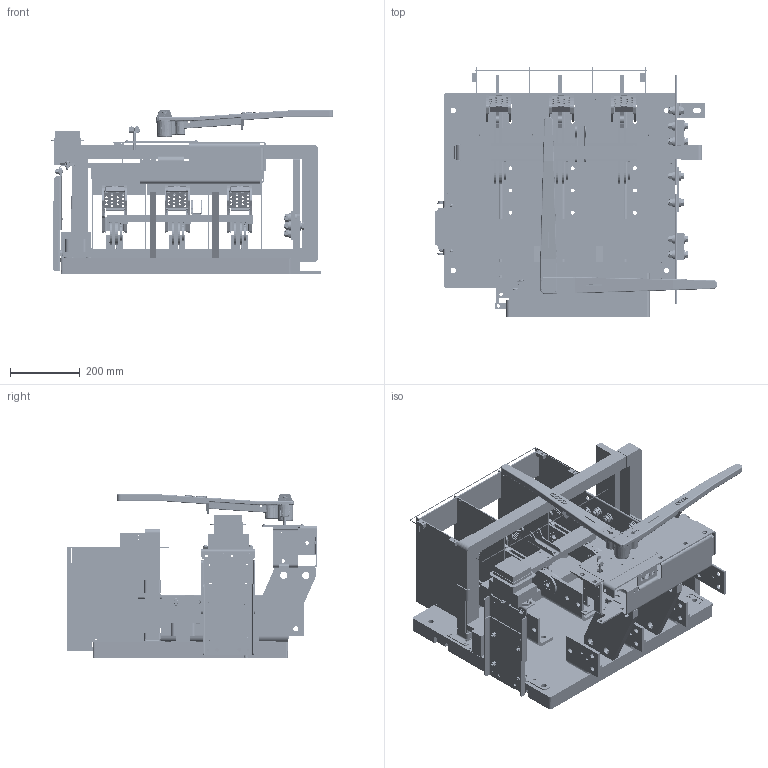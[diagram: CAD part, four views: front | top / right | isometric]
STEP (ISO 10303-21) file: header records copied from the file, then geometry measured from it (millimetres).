
FILE_DESCRIPTION(/* description */ (''),/* implementation_level */ '2;1');
FILE_NAME(/* name */ 'H:\switches\3d-templates\catalog-switches-iges-files\CATALOG-VL367G6.stp',/* time_stamp */ '2022-03-22T13:54:53-05:00',/* author */ ('MKingston'),/* organization */ (''),/* preprocessor_version */ 'ST-DEVELOPER v18.1',/* originating_system */ 'Autodesk Inventor 2022',/* authorisation */ '');
FILE_SCHEMA (('AUTOMOTIVE_DESIGN { 1 0 10303 214 3 1 1 }'));
Products named in the file (67): catalog-vl367; 277; 666-d; 666-E; 668-c; 223-d-transparent; catalog-blade-assy; 67-AL; 67-AR; 67-gc3; 67-M; 235-b; 230-a; 255-z; catalog-56-qj-arcchute-assy; 363-da; 363-da_MIR; 50-QLX; 50-QRX; 56-QJS; 57-QJSB; 57-QJST; 255-bha; 246-a; 800-vl-neutral-assembly; 676-h; 677-a; 675-a; 675-df; 675-ba; 678-r; Bolted Connection; ANSI B18.2.1 - 1/2-13 UNC - 1.5, HCSI; Bolted Connection_1; ANSI B18.2.1 - 1/2-13 UNC - 2, HCSI; ASTM F436 - 1/2, CW; ASME B18.21.1 - 1/2, RHSLW; AS 2465 - 1/2  UNC; 178-c; 255-c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
Assembly tree (161 placements, depth 4):
  catalog-vl367
    277
    666-d  x3
    666-E  x3
    668-c  x3
    223-d-transparent
    catalog-blade-assy  x3
      67-AL
      67-AR
      67-gc3
      67-M
    235-b
    230-a
    255-z
    catalog-56-qj-arcchute-assy  x3
      363-da
      363-da_MIR
      50-QLX
      50-QRX
      56-QJS
      57-QJSB
      57-QJST
    255-bha  x4
    246-a  x2
    800-vl-neutral-assembly
      676-h  x2
      677-a
      675-a
      675-df  x2
      675-ba
      678-r
      Bolted Connection
        ASTM F436 - 1/2, CW  x10
        ANSI B18.2.1 - 1/2-13 UNC - 1.5, HCSI  x5
        ASME B18.21.1 - 1/2, RHSLW  x5
        AS 2465 - 1/2  UNC  x5
      Bolted Connection_1
        ASTM F436 - 1/2, CW  x8
        ANSI B18.2.1 - 1/2-13 UNC - 2, HCSI  x4
        ASME B18.21.1 - 1/2, RHSLW  x4
        AS 2465 - 1/2  UNC  x4
    178-c  x8
    255-c
    178-b  x4
    gfr-1-mounting-assembly
      277-L1T
      277-l2
      277-l3
      277-l4
      gfr-1
      Bolted Connection_2
        ANSI B18.22.1 - No. 10 - Type A  x4
        ASME B18.21.1 - No. 10. Carbon Steel, ETLWTB(1)  x4
        ANSI B18.6.3 - 10 - 32 x 7/8 SR HMS  x2
        ANSI B18.2.2 - 10 - 32, HMSNI  x2
      Bolted Connection_3
        ANSI B18.5 - 1/4-20 UNC - 0.75, RHBI  x6
        ASTM F436 - 1/4, CW  x6
        ASME B18.21.1 - 1/4. Carbon Steel, HITLWTB(1)  x6
        ANSI B18.2.2 - 1/4 - 20, HNI  x6
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Bounding box: 808 x 717.33 x 466.29 mm (x, y, z)
Volume: 20279490.1 mm3; surface area: 4539031.5 mm2
Topology: 183 solids, 184 shells, 6235 faces, 15968 edges, 10385 vertices
Faces by surface type: plane 3189, cylinder 1785, cone 732, bspline 450, torus 71, sphere 8
Full cylindrical faces by diameter (mm): 1.702 x8, 3.302 x2, 3.581 x2, 3.683 x8, 3.759 x12, 3.962 x11, 4.089 x4, 4.305 x42, 4.366 x2, 4.496 x24, 4.653 x4, 4.775 x8, 4.801 x8, 4.826 x2, 4.902 x8, 4.915 x24, 4.953 x4, 4.978 x9, 5.462 x4, 5.537 x3, 5.556 x5, 5.563 x4, 5.791 x6, 6.35 x50, 6.528 x43, 7.137 x11, 7.144 x14, 7.938 x19, 8.331 x2, 8.731 x2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
Entity records: 116837 total; most frequent: CARTESIAN_POINT 29794, ORIENTED_EDGE 17432, DIRECTION 17279, EDGE_CURVE 8724, AXIS2_PLACEMENT_3D 5957, VERTEX_POINT 5664, LINE 5365, VECTOR 5365
